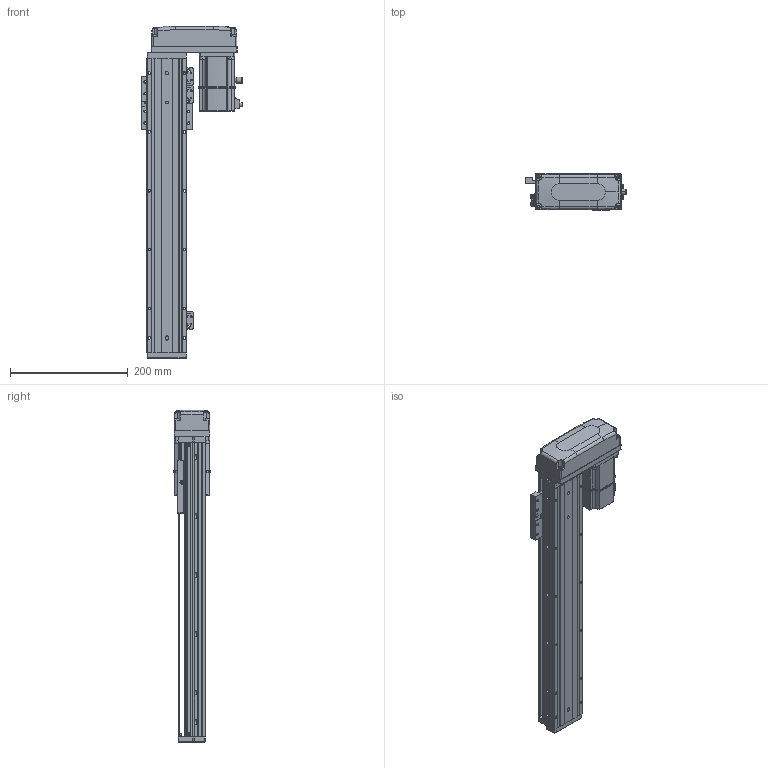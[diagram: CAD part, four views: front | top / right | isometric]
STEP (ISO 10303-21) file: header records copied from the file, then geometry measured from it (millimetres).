
FILE_DESCRIPTION (( 'STEP AP203' ), '1' );
FILE_NAME ('KTHAL60-350-BL-M20-C4L.step', '2022-12-16T02:06:08', ( '微软用户' ), ( '微软中国' ), 'SwSTEP 2.0', 'SolidWorks 2020', '' );
FILE_SCHEMA (( 'CONFIG_CONTROL_DESIGN' ));
Length unit declared in the file: millimetre
Products named in the file (17): GBT 70.3-M3℅6; CTHA60-016; EE_SX911P_R; _X2_4E0983F1_X0_200W_1; KTHA60-001_500; CTHA60-017; CTHA60-015-4_CTHA60-015-4; KTHLA60-002; CTHA60-021; GTH80-026; KTHA60-004; GBT 70.1-M4×16; KTHAL60-350-BL-M20-C4L; KTHA60-005; GBT77-2000M3-3; GB¨uT 70.2-M3¡Á5_M3¡Á6; GBT 70.1-M3℅6
Assembly tree (45 placements, depth 2):
  KTHAL60-350-BL-M20-C4L
    KTHA60-001_500
    KTHLA60-002
    KTHA60-004
    KTHA60-005
    GB¨uT 70.2-M3¡Á5_M3¡Á6  x5
    GBT 70.3-M3℅6  x4
    EE_SX911P_R  x3
    CTHA60-017  x3
    CTHA60-021  x2
    GBT 70.1-M4×16  x8
    GBT77-2000M3-3  x6
    GBT 70.1-M3℅6  x6
    CTHA60-016
    _X2_4E0983F1_X0_200W_1
    CTHA60-015-4_CTHA60-015-4
    GTH80-026
Bounding box: 172.2 x 62.42 x 564 mm (x, y, z)
Volume: 1677378.5 mm3; surface area: 350478.4 mm2
Topology: 48 solids, 48 shells, 2331 faces, 5548 edges, 3409 vertices
Faces by surface type: plane 1247, cylinder 617, cone 268, bspline 103, torus 82, sphere 14
Entity records: 45247 total; most frequent: CARTESIAN_POINT 10154, DIRECTION 6811, ORIENTED_EDGE 6720, EDGE_CURVE 3360, AXIS2_PLACEMENT_3D 2350, LINE 2111, VECTOR 2111, VERTEX_POINT 2093
